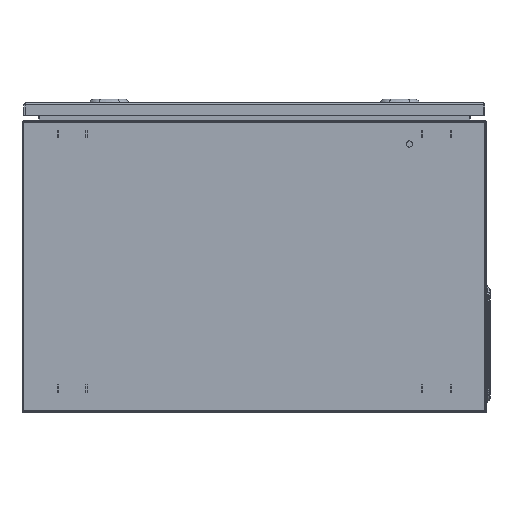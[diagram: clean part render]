
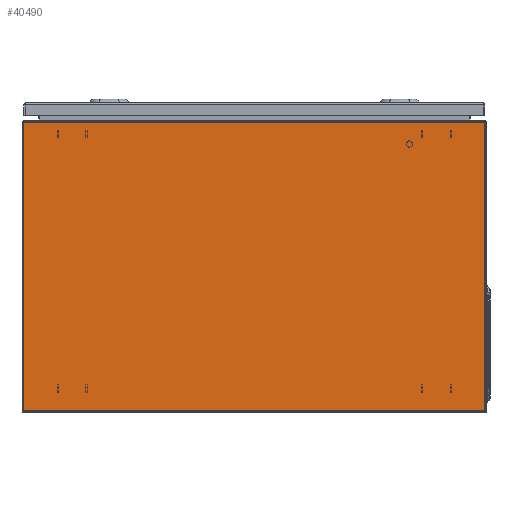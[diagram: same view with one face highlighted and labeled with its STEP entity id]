
A CAD part, left-side view. The second image highlights one B-rep face of the part: STEP entity #40490.
In plain terms, the highlighted planar face has unit normal (-1, 0, 0).
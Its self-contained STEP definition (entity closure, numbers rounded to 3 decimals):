
#549 = DIRECTION ( 'NONE',  ( 0., 0., -1. ) ) ;
#1133 = ORIENTED_EDGE ( 'NONE', *, *, #22992, .T. ) ;
#1944 = EDGE_CURVE ( 'NONE', #3949, #8470, #47420, .T. ) ;
#3949 = VERTEX_POINT ( 'NONE', #22229 ) ;
#4115 = CARTESIAN_POINT ( 'NONE',  ( -300., -300., 2.35 ) ) ;
#4695 = DIRECTION ( 'NONE',  ( 1., 0., 0. ) ) ;
#4900 = DIRECTION ( 'NONE',  ( 0., -1., 0. ) ) ;
#6426 = CARTESIAN_POINT ( 'NONE',  ( -300., 297.5, 374.5 ) ) ;
#6959 = VERTEX_POINT ( 'NONE', #14912 ) ;
#7246 = VECTOR ( 'NONE', #10325, 1000. ) ;
#7467 = EDGE_CURVE ( 'NONE', #21142, #3949, #43610, .T. ) ;
#8470 = VERTEX_POINT ( 'NONE', #46162 ) ;
#9294 = CARTESIAN_POINT ( 'NONE',  ( -300., 297.5, 1.5 ) ) ;
#10325 = DIRECTION ( 'NONE',  ( 0., -1., 0. ) ) ;
#13270 = PLANE ( 'NONE',  #36771 ) ;
#14480 = ORIENTED_EDGE ( 'NONE', *, *, #1944, .T. ) ;
#14912 = CARTESIAN_POINT ( 'NONE',  ( -300., -297.5, 374.5 ) ) ;
#14989 = CARTESIAN_POINT ( 'NONE',  ( -300., -297.5, 1.5 ) ) ;
#15236 = DIRECTION ( 'NONE',  ( 0., 0., 1. ) ) ;
#16164 = EDGE_LOOP ( 'NONE', ( #31770, #14480, #1133, #28920 ) ) ;
#18573 = VECTOR ( 'NONE', #549, 1000. ) ;
#21077 = EDGE_CURVE ( 'NONE', #21142, #6959, #25877, .T. ) ;
#21142 = VERTEX_POINT ( 'NONE', #6426 ) ;
#22229 = CARTESIAN_POINT ( 'NONE',  ( -300., 297.5, 2.35 ) ) ;
#22992 = EDGE_CURVE ( 'NONE', #8470, #6959, #30768, .T. ) ;
#24933 = DIRECTION ( 'NONE',  ( 0., 0., -1. ) ) ;
#25877 = LINE ( 'NONE', #49957, #7246 ) ;
#28920 = ORIENTED_EDGE ( 'NONE', *, *, #21077, .F. ) ;
#30768 = LINE ( 'NONE', #14989, #37634 ) ;
#31770 = ORIENTED_EDGE ( 'NONE', *, *, #7467, .T. ) ;
#36771 = AXIS2_PLACEMENT_3D ( 'NONE', #36863, #4695, #24933 ) ;
#36863 = CARTESIAN_POINT ( 'NONE',  ( -300., -300., 1.5 ) ) ;
#37634 = VECTOR ( 'NONE', #15236, 1000. ) ;
#39264 = VECTOR ( 'NONE', #4900, 1000. ) ;
#40490 = ADVANCED_FACE ( 'NONE', ( #41244 ), #13270, .F. ) ;
#41244 = FACE_OUTER_BOUND ( 'NONE', #16164, .T. ) ;
#43610 = LINE ( 'NONE', #9294, #18573 ) ;
#46162 = CARTESIAN_POINT ( 'NONE',  ( -300., -297.5, 2.35 ) ) ;
#47420 = LINE ( 'NONE', #4115, #39264 ) ;
#49957 = CARTESIAN_POINT ( 'NONE',  ( -300., 300., 374.5 ) ) ;
